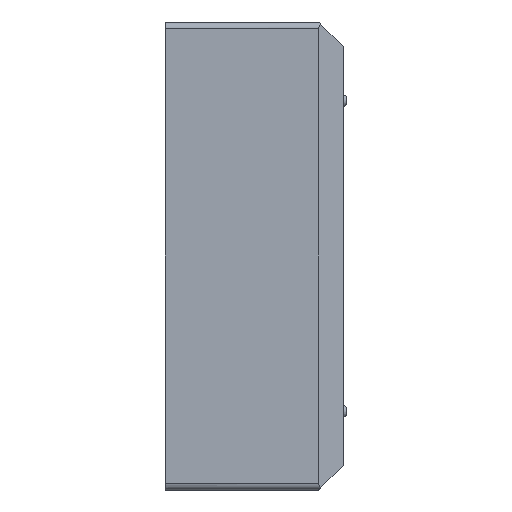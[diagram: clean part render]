
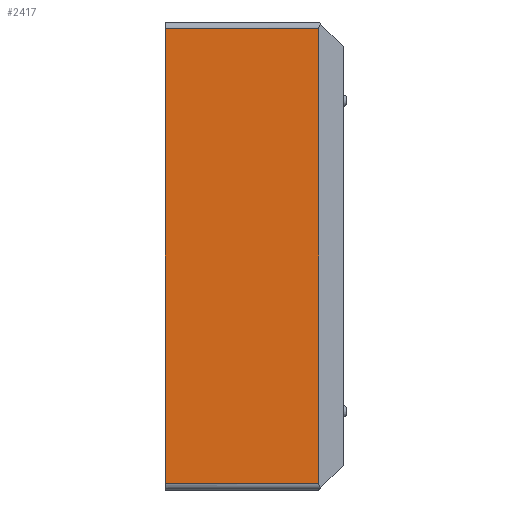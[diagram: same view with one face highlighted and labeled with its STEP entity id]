
A CAD part, left-side view. The second image highlights one B-rep face of the part: STEP entity #2417.
In plain terms, the highlighted planar face has unit normal (-1, 0, 0).
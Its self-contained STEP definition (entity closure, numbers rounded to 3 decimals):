
#95 = CARTESIAN_POINT ( 'NONE',  ( -62.5, -25.5, 32.5 ) ) ;
#177 = ORIENTED_EDGE ( 'NONE', *, *, #323, .F. ) ;
#196 = CARTESIAN_POINT ( 'NONE',  ( -62.5, -22., -32.5 ) ) ;
#323 = EDGE_CURVE ( 'NONE', #1412, #577, #3736, .T. ) ;
#329 = AXIS2_PLACEMENT_3D ( 'NONE', #2005, #4777, #2461 ) ;
#431 = CARTESIAN_POINT ( 'NONE',  ( -62.5, -22., 32.5 ) ) ;
#577 = VERTEX_POINT ( 'NONE', #3923 ) ;
#582 = EDGE_CURVE ( 'NONE', #1238, #1809, #1680, .T. ) ;
#1065 = VECTOR ( 'NONE', #4899, 1000. ) ;
#1102 = VECTOR ( 'NONE', #2638, 1000. ) ;
#1238 = VERTEX_POINT ( 'NONE', #431 ) ;
#1279 = ORIENTED_EDGE ( 'NONE', *, *, #2234, .T. ) ;
#1412 = VERTEX_POINT ( 'NONE', #1934 ) ;
#1567 = VECTOR ( 'NONE', #3828, 1000. ) ;
#1680 = LINE ( 'NONE', #95, #1567 ) ;
#1809 = VERTEX_POINT ( 'NONE', #2086 ) ;
#1934 = CARTESIAN_POINT ( 'NONE',  ( -62.5, -22., -32.5 ) ) ;
#2005 = CARTESIAN_POINT ( 'NONE',  ( -62.5, -25.5, -32.5 ) ) ;
#2086 = CARTESIAN_POINT ( 'NONE',  ( -62.5, 0., 32.5 ) ) ;
#2234 = EDGE_CURVE ( 'NONE', #1412, #1238, #2253, .T. ) ;
#2253 = LINE ( 'NONE', #196, #1065 ) ;
#2292 = ORIENTED_EDGE ( 'NONE', *, *, #582, .T. ) ;
#2332 = ORIENTED_EDGE ( 'NONE', *, *, #3330, .F. ) ;
#2417 = ADVANCED_FACE ( 'NONE', ( #4384 ), #4001, .T. ) ;
#2461 = DIRECTION ( 'NONE',  ( 0., 0., 1. ) ) ;
#2638 = DIRECTION ( 'NONE',  ( 0., 0., 1. ) ) ;
#2697 = VECTOR ( 'NONE', #3994, 1000. ) ;
#3250 = EDGE_LOOP ( 'NONE', ( #177, #1279, #2292, #2332 ) ) ;
#3330 = EDGE_CURVE ( 'NONE', #577, #1809, #3494, .T. ) ;
#3494 = LINE ( 'NONE', #4179, #1102 ) ;
#3736 = LINE ( 'NONE', #4400, #2697 ) ;
#3828 = DIRECTION ( 'NONE',  ( 0., 1., 0. ) ) ;
#3923 = CARTESIAN_POINT ( 'NONE',  ( -62.5, 0., -32.5 ) ) ;
#3994 = DIRECTION ( 'NONE',  ( 0., 1., 0. ) ) ;
#4001 = PLANE ( 'NONE',  #329 ) ;
#4179 = CARTESIAN_POINT ( 'NONE',  ( -62.5, 0., -32.5 ) ) ;
#4384 = FACE_OUTER_BOUND ( 'NONE', #3250, .T. ) ;
#4400 = CARTESIAN_POINT ( 'NONE',  ( -62.5, -25.5, -32.5 ) ) ;
#4777 = DIRECTION ( 'NONE',  ( -1., 0., 0. ) ) ;
#4899 = DIRECTION ( 'NONE',  ( 0., 0., 1. ) ) ;
